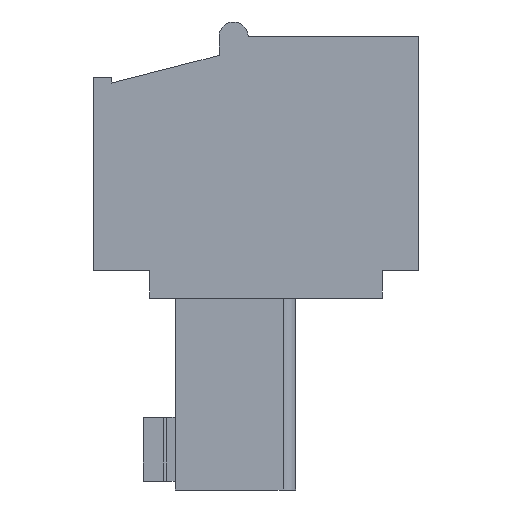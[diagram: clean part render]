
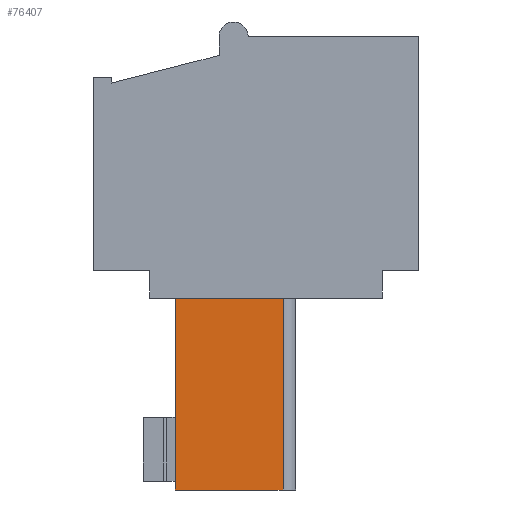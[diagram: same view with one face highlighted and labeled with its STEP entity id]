
A CAD part, left-side view. The second image highlights one B-rep face of the part: STEP entity #76407.
In plain terms, the highlighted planar face has unit normal (-1, 0, 0).
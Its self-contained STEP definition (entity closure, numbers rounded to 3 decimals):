
#329 = PLANE('',#330);
#330 = AXIS2_PLACEMENT_3D('',#331,#332,#333);
#331 = CARTESIAN_POINT('',(0.,-6.37,-9.));
#332 = DIRECTION('',(0.,0.,-1.));
#333 = DIRECTION('',(0.,1.,0.));
#51581 = VERTEX_POINT('',#51582);
#51582 = CARTESIAN_POINT('',(-57.06,-1.7,-9.));
#51597 = CYLINDRICAL_SURFACE('',#51598,0.44);
#51598 = AXIS2_PLACEMENT_3D('',#51599,#51600,#51601);
#51599 = CARTESIAN_POINT('',(-56.62,-1.7,-9.));
#51600 = DIRECTION('',(0.,0.,-1.));
#51601 = DIRECTION('',(1.,0.,0.));
#51609 = EDGE_CURVE('',#51581,#51610,#51612,.T.);
#51610 = VERTEX_POINT('',#51611);
#51611 = CARTESIAN_POINT('',(-57.06,2.01,-9.));
#51612 = SURFACE_CURVE('',#51613,(#51617,#51624),.PCURVE_S1.);
#51613 = LINE('',#51614,#51615);
#51614 = CARTESIAN_POINT('',(-57.06,-1.7,-9.));
#51615 = VECTOR('',#51616,1.);
#51616 = DIRECTION('',(0.,1.,0.));
#51617 = PCURVE('',#329,#51618);
#51618 = DEFINITIONAL_REPRESENTATION('',(#51619),#51623);
#51619 = LINE('',#51620,#51621);
#51620 = CARTESIAN_POINT('',(4.67,-57.06));
#51621 = VECTOR('',#51622,1.);
#51622 = DIRECTION('',(1.,0.));
#51623 = ( GEOMETRIC_REPRESENTATION_CONTEXT(2) 
PARAMETRIC_REPRESENTATION_CONTEXT() REPRESENTATION_CONTEXT('2D SPACE',''
  ) );
#51624 = PCURVE('',#51625,#51630);
#51625 = PLANE('',#51626);
#51626 = AXIS2_PLACEMENT_3D('',#51627,#51628,#51629);
#51627 = CARTESIAN_POINT('',(-57.06,-1.7,-9.));
#51628 = DIRECTION('',(-1.,0.,0.));
#51629 = DIRECTION('',(0.,1.,0.));
#51630 = DEFINITIONAL_REPRESENTATION('',(#51631),#51635);
#51631 = LINE('',#51632,#51633);
#51632 = CARTESIAN_POINT('',(0.,0.));
#51633 = VECTOR('',#51634,1.);
#51634 = DIRECTION('',(1.,0.));
#51635 = ( GEOMETRIC_REPRESENTATION_CONTEXT(2) 
PARAMETRIC_REPRESENTATION_CONTEXT() REPRESENTATION_CONTEXT('2D SPACE',''
  ) );
#51651 = PLANE('',#51652);
#51652 = AXIS2_PLACEMENT_3D('',#51653,#51654,#51655);
#51653 = CARTESIAN_POINT('',(-57.06,2.01,-9.));
#51654 = DIRECTION('',(0.,1.,0.));
#51655 = DIRECTION('',(1.,0.,0.));
#75804 = PLANE('',#75805);
#75805 = AXIS2_PLACEMENT_3D('',#75806,#75807,#75808);
#75806 = CARTESIAN_POINT('',(-55.64,0.,-15.6));
#75807 = DIRECTION('',(0.,0.,-1.));
#75808 = DIRECTION('',(1.,0.,0.));
#75872 = VERTEX_POINT('',#75873);
#75873 = CARTESIAN_POINT('',(-57.06,-1.7,-15.6));
#75924 = VERTEX_POINT('',#75925);
#75925 = CARTESIAN_POINT('',(-57.06,2.01,-15.6));
#75946 = EDGE_CURVE('',#75924,#75872,#75947,.T.);
#75947 = SURFACE_CURVE('',#75948,(#75952,#75959),.PCURVE_S1.);
#75948 = LINE('',#75949,#75950);
#75949 = CARTESIAN_POINT('',(-57.06,2.01,-15.6));
#75950 = VECTOR('',#75951,1.);
#75951 = DIRECTION('',(0.,-1.,0.));
#75952 = PCURVE('',#75804,#75953);
#75953 = DEFINITIONAL_REPRESENTATION('',(#75954),#75958);
#75954 = LINE('',#75955,#75956);
#75955 = CARTESIAN_POINT('',(-1.42,-2.01));
#75956 = VECTOR('',#75957,1.);
#75957 = DIRECTION('',(0.,1.));
#75958 = ( GEOMETRIC_REPRESENTATION_CONTEXT(2) 
PARAMETRIC_REPRESENTATION_CONTEXT() REPRESENTATION_CONTEXT('2D SPACE',''
  ) );
#75959 = PCURVE('',#51625,#75960);
#75960 = DEFINITIONAL_REPRESENTATION('',(#75961),#75965);
#75961 = LINE('',#75962,#75963);
#75962 = CARTESIAN_POINT('',(3.71,6.6));
#75963 = VECTOR('',#75964,1.);
#75964 = DIRECTION('',(-1.,0.));
#75965 = ( GEOMETRIC_REPRESENTATION_CONTEXT(2) 
PARAMETRIC_REPRESENTATION_CONTEXT() REPRESENTATION_CONTEXT('2D SPACE',''
  ) );
#76387 = EDGE_CURVE('',#51581,#75872,#76388,.T.);
#76388 = SURFACE_CURVE('',#76389,(#76393,#76400),.PCURVE_S1.);
#76389 = LINE('',#76390,#76391);
#76390 = CARTESIAN_POINT('',(-57.06,-1.7,-9.));
#76391 = VECTOR('',#76392,1.);
#76392 = DIRECTION('',(0.,0.,-1.));
#76393 = PCURVE('',#51597,#76394);
#76394 = DEFINITIONAL_REPRESENTATION('',(#76395),#76399);
#76395 = LINE('',#76396,#76397);
#76396 = CARTESIAN_POINT('',(3.142,0.));
#76397 = VECTOR('',#76398,1.);
#76398 = DIRECTION('',(0.,1.));
#76399 = ( GEOMETRIC_REPRESENTATION_CONTEXT(2) 
PARAMETRIC_REPRESENTATION_CONTEXT() REPRESENTATION_CONTEXT('2D SPACE',''
  ) );
#76400 = PCURVE('',#51625,#76401);
#76401 = DEFINITIONAL_REPRESENTATION('',(#76402),#76406);
#76402 = LINE('',#76403,#76404);
#76403 = CARTESIAN_POINT('',(0.,0.));
#76404 = VECTOR('',#76405,1.);
#76405 = DIRECTION('',(0.,1.));
#76406 = ( GEOMETRIC_REPRESENTATION_CONTEXT(2) 
PARAMETRIC_REPRESENTATION_CONTEXT() REPRESENTATION_CONTEXT('2D SPACE',''
  ) );
#76407 = ADVANCED_FACE('',(#76408),#51625,.T.);
#76408 = FACE_BOUND('',#76409,.F.);
#76409 = EDGE_LOOP('',(#76410,#76411,#76412,#76433));
#76410 = ORIENTED_EDGE('',*,*,#76387,.T.);
#76411 = ORIENTED_EDGE('',*,*,#75946,.F.);
#76412 = ORIENTED_EDGE('',*,*,#76413,.T.);
#76413 = EDGE_CURVE('',#75924,#51610,#76414,.T.);
#76414 = SURFACE_CURVE('',#76415,(#76419,#76426),.PCURVE_S1.);
#76415 = LINE('',#76416,#76417);
#76416 = CARTESIAN_POINT('',(-57.06,2.01,-15.6));
#76417 = VECTOR('',#76418,1.);
#76418 = DIRECTION('',(0.,0.,1.));
#76419 = PCURVE('',#51625,#76420);
#76420 = DEFINITIONAL_REPRESENTATION('',(#76421),#76425);
#76421 = LINE('',#76422,#76423);
#76422 = CARTESIAN_POINT('',(3.71,6.6));
#76423 = VECTOR('',#76424,1.);
#76424 = DIRECTION('',(0.,-1.));
#76425 = ( GEOMETRIC_REPRESENTATION_CONTEXT(2) 
PARAMETRIC_REPRESENTATION_CONTEXT() REPRESENTATION_CONTEXT('2D SPACE',''
  ) );
#76426 = PCURVE('',#51651,#76427);
#76427 = DEFINITIONAL_REPRESENTATION('',(#76428),#76432);
#76428 = LINE('',#76429,#76430);
#76429 = CARTESIAN_POINT('',(0.,6.6));
#76430 = VECTOR('',#76431,1.);
#76431 = DIRECTION('',(0.,-1.));
#76432 = ( GEOMETRIC_REPRESENTATION_CONTEXT(2) 
PARAMETRIC_REPRESENTATION_CONTEXT() REPRESENTATION_CONTEXT('2D SPACE',''
  ) );
#76433 = ORIENTED_EDGE('',*,*,#51609,.F.);
